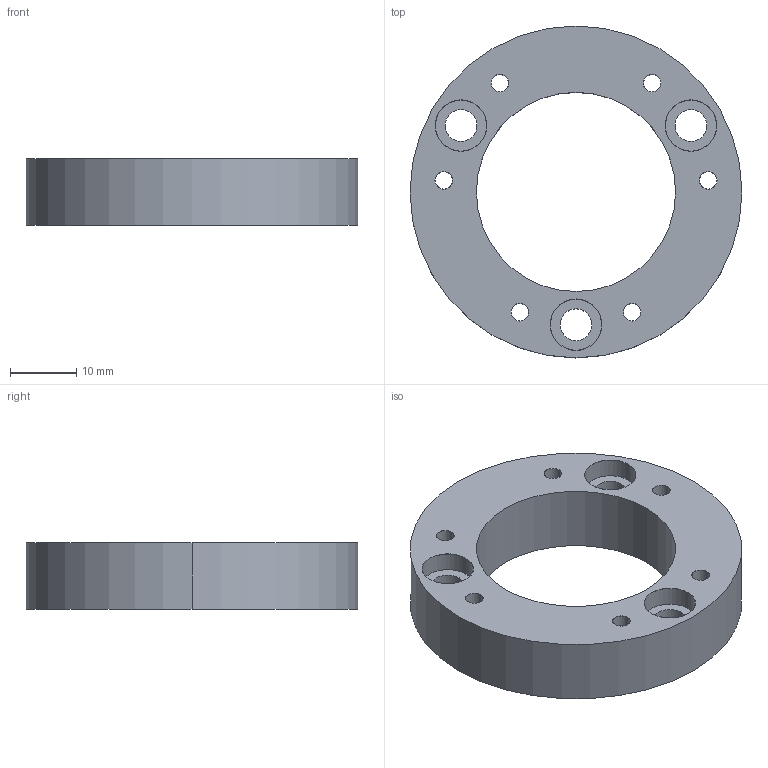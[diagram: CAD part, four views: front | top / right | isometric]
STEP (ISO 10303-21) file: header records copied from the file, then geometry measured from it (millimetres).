
FILE_DESCRIPTION (( 'STEP AP214' ), '1' );
FILE_NAME ('2026_2_4_フランジスペーサー.STEP', '2026-02-26T09:47:47', ( '' ), ( '' ), 'SwSTEP 2.0', 'SolidWorks 2025', '' );
FILE_SCHEMA (( 'AUTOMOTIVE_DESIGN' ));
Length unit declared in the file: millimetre
Products named in the file (1): 2026_2_4_フランジスペーサー
Bounding box: 50 x 50 x 10 mm (x, y, z)
Volume: 11457.2 mm3; surface area: 5874.2 mm2
Topology: 1 solids, 1 shells, 51 faces, 120 edges, 74 vertices
Faces by surface type: cylinder 28, cone 18, plane 5
Entity records: 2042 total; most frequent: DIRECTION 298, CARTESIAN_POINT 246, ORIENTED_EDGE 240, AXIS2_PLACEMENT_3D 126, EDGE_CURVE 120, CIRCLE 74, VERTEX_POINT 74, EDGE_LOOP 74
